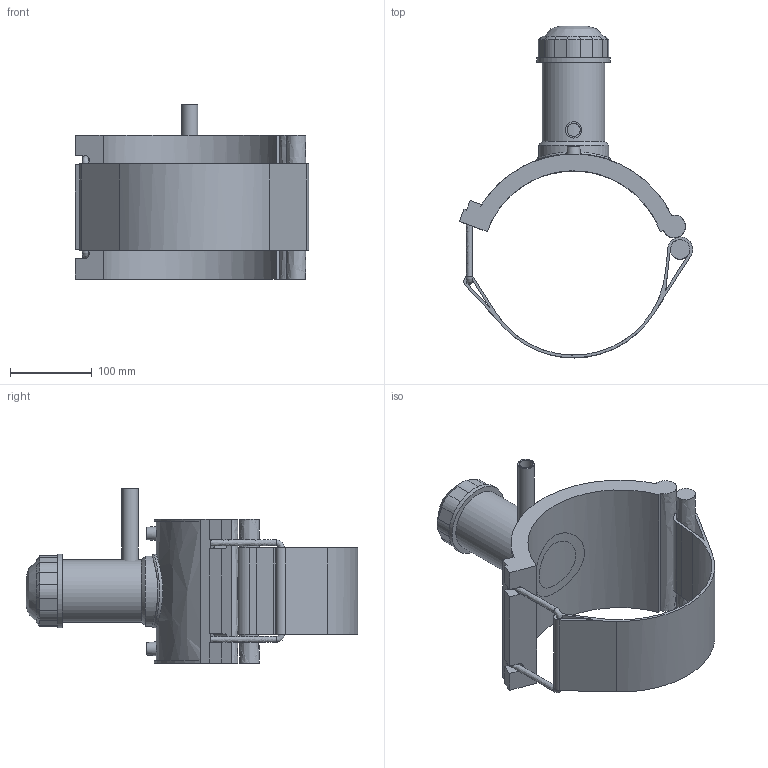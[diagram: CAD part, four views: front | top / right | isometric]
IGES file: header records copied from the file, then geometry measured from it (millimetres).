
Global section: file name: 4963P4225020; native system: Autodesk Inventor 2019; preprocessor: unknown; author: KIM; date: 20220317.113212; units: millimetre
Bounding box: 284.83 x 405.37 x 213 mm (x, y, z)
Volume: 1896624.1 mm3; surface area: 369053.3 mm2
Topology: 3 solids, 3 shells, 118 faces, 303 edges, 197 vertices
Faces by surface type: bspline 118
